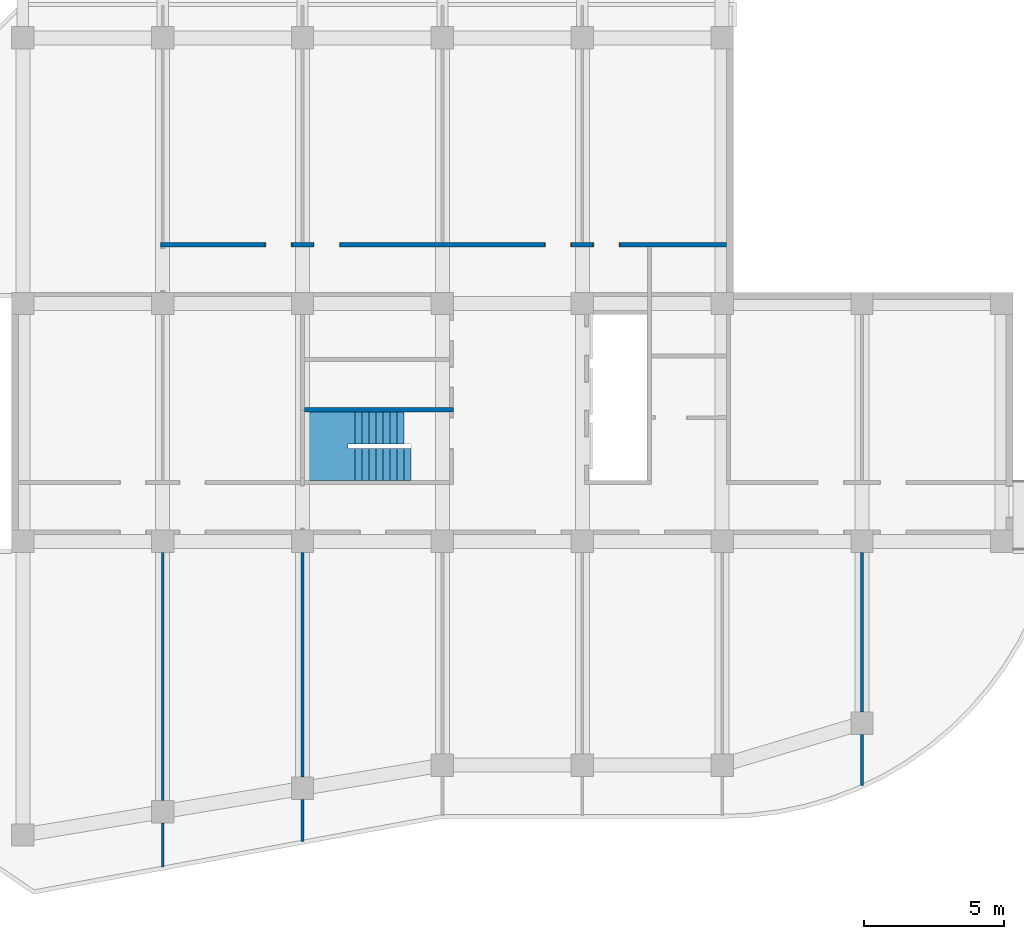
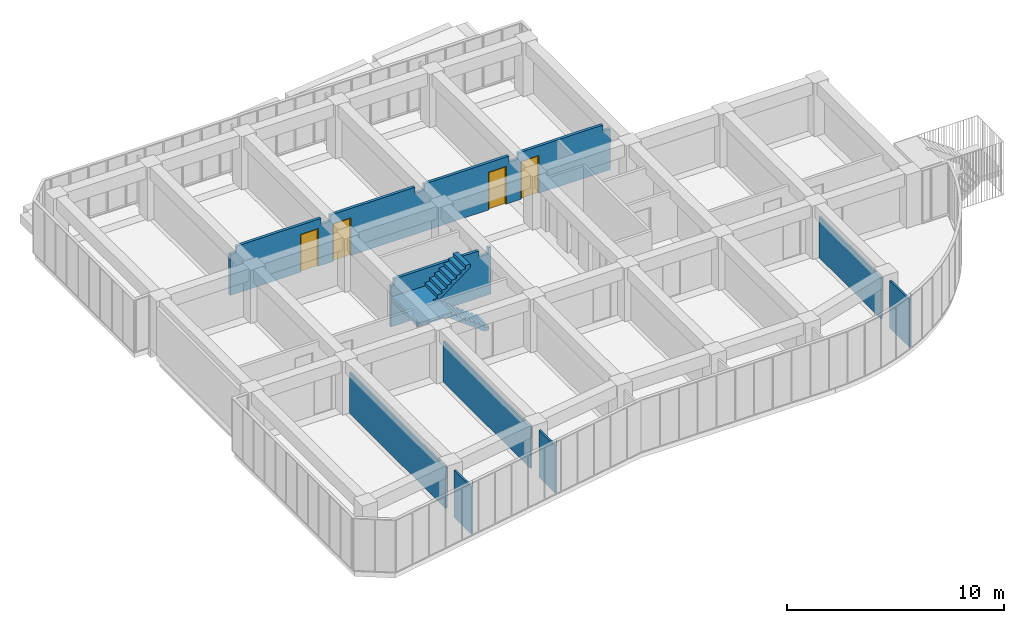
# One storey, part 6 of 6: 5 walls, 4 doors, 1 stair, 4 openings.
"""IFC2X3 building model written with IfcOpenShell, lengths in millimetres."""

from ifc_helpers import new_model, entity, si_unit, converted_unit, derived_unit, money_unit, direction, frame, origin_with_axes, place, context, subcontext, project, spatial, open_shell, faceted_brep, surface_model, source, transform, mapped, material, material_list, type_object, element, fill, save


model = new_model("IFC2X3")

# Units and contexts
model_context = context("Model", 3, precision=0.01, world=origin_with_axes(), true_north=direction((0.0, 1.0)))
body_context = subcontext(model_context, "Body", "Model", "MODEL_VIEW")
ifc_project = project(units=[si_unit("LENGTHUNIT", "METRE", prefix="MILLI"), si_unit("AREAUNIT", "SQUARE_METRE"), si_unit("VOLUMEUNIT", "CUBIC_METRE"), converted_unit("PLANEANGLEUNIT", "DEGREE", entity("IfcPlaneAngleMeasure", 0.0174532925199), si_unit("PLANEANGLEUNIT", "RADIAN"), dimensions=[0, 0, 0, 0, 0, 0, 0]), si_unit("SOLIDANGLEUNIT", "STERADIAN"), money_unit("JPY"), converted_unit("TIMEUNIT", "Year", entity("IfcTimeMeasure", 31556926.0), si_unit("TIMEUNIT", "SECOND"), dimensions=[0, 0, 1, 0, 0, 0, 0]), si_unit("MASSUNIT", "GRAM", prefix="KILO"), si_unit("THERMODYNAMICTEMPERATUREUNIT", "DEGREE_CELSIUS"), si_unit("LUMINOUSINTENSITYUNIT", "LUMEN"), si_unit("ENERGYUNIT", "JOULE", prefix="MEGA"), derived_unit("THERMALCONDUCTANCEUNIT", [(si_unit("POWERUNIT", "WATT"), 1), (si_unit("LENGTHUNIT", "METRE"), -1), (si_unit("THERMODYNAMICTEMPERATUREUNIT", "KELVIN"), -1)]), derived_unit("SPECIFICHEATCAPACITYUNIT", [(si_unit("ENERGYUNIT", "JOULE"), 1), (si_unit("MASSUNIT", "GRAM", prefix="KILO"), -1), (si_unit("THERMODYNAMICTEMPERATUREUNIT", "KELVIN"), -1)]), derived_unit("MASSDENSITYUNIT", [(si_unit("MASSUNIT", "GRAM", prefix="KILO"), 1), (si_unit("VOLUMEUNIT", "CUBIC_METRE"), -1)])], contexts=[model_context])

# Site, building, storey
site_placement = place(None, origin_with_axes())
site = spatial("IfcSite", under=ifc_project, at=site_placement, Name="サイト", CompositionType="ELEMENT")
building_placement = place(site_placement, origin_with_axes())
building = spatial("IfcBuilding", under=site, at=building_placement, Name="建築", CompositionType="ELEMENT")
storey_placement = place(building_placement, frame((0.0, 0.0, 6000.0), z_axis=(0.0, 0.0, 1.0), x_axis=(1.0, 0.0, 0.0)))
storey = spatial("IfcBuildingStorey", under=building, at=storey_placement, Name="3FL", CompositionType="ELEMENT", Elevation=6000.0)

# Wall
ifc_material_1 = material(Name="コンクリート")
wall_type_1 = type_object("IfcWallType", Name="コンクリート 150", PredefinedType="NOTDEFINED")
wall_1_placement = place(storey_placement, frame((10000.0, 4700.0, 0.0), z_axis=(0.0, 0.0, 1.0), x_axis=(1.0, 0.0, 0.0)))
element("IfcWall", 1, at=wall_1_placement, inside=storey, type_object=wall_type_1, material=ifc_material_1, Name="W4", context=body_context, shape_type="Brep", body=[
    faceted_brep([(75.0, 75.0, 0.0), (75.0, 75.0, 2300.0), (250.0, 75.0, 2300.0), (250.0, 75.0, 2650.0), (4750.0, 75.0, 2650.0), (4750.0, 75.0, 2300.0), (5250.0, 75.0, 2300.0), (5250.0, 75.0, 2650.0), (5399.99999555, 75.0, 2650.0), (5399.99999555, 75.0, 0.0), (75.0, 0.0, 0.0), (75.0, 0.0, 2300.0), (250.0, -75.0, 2300.0), (75.0, -75.0, 2300.0), (250.0, -75.0, 2650.0), (3381.20524398, -75.0, 2650.0), (4750.0, -75.0, 2650.0), (4750.0, -75.0, 2300.0), (5250.0, -75.0, 2300.0), (5250.0, -75.0, 2650.0), (5399.99999555, -75.0, 2650.0), (5399.99999555, -75.0, 0.0), (75.0, -75.0, 0.0)], [[[0, 1, 2, 3, 4, 5, 6, 7, 8, 9]], [[10, 11, 1, 0]], [[12, 2, 1, 11, 13]], [[12, 14, 3, 2]], [[4, 3, 14, 15, 16]], [[17, 5, 4, 16]], [[18, 6, 5, 17]], [[18, 19, 7, 6]], [[8, 7, 19, 20]], [[21, 9, 8, 20]], [[9, 21, 22, 10, 0]], [[22, 13, 11, 10]], [[14, 12, 13, 22, 21, 20, 19, 18, 17, 16, 15]]]),
])

# Wall, openings, doors
wall_2_placement = place(storey_placement, frame((25275.0000022, 10600.0, 0.0), z_axis=(0.0, 0.0, 1.0), x_axis=(-1.0, 0.0, 0.0)))
wall_2 = element("IfcWall", 2, at=wall_2_placement, inside=storey, type_object=wall_type_1, material=ifc_material_1, Name="W9", context=body_context, shape_type="Brep", body=[
    faceted_brep([(16620.0000022, -75.0, 2130.0), (16620.0000022, -75.0, 0.0), (20350.0000022, -75.0, 0.0), (20350.0000022, -75.0, 2300.0), (20025.0000022, -75.0, 2300.0), (20025.0000022, -75.0, 2650.0), (15525.0000022, -75.0, 2650.0), (15525.0000022, -75.0, 2300.0), (15025.0000022, -75.0, 2300.0), (15025.0000022, -75.0, 2650.0), (10525.0000022, -75.0, 2650.0), (10525.0000022, -75.0, 2300.0), (10025.0000022, -75.0, 2300.0), (10025.0000022, -75.0, 2650.0), (5525.00000218, -75.0, 2650.0), (5525.00000218, -75.0, 2300.0), (5025.00000218, -75.0, 2300.0), (5025.00000218, -75.0, 2650.0), (525.000002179, -75.0, 2650.0), (525.000002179, -75.0, 2300.0), (125.0, -75.0, 2300.0), (125.0, -75.0, 0.0), (3930.00000218, -75.0, 0.0), (3930.00000218, -75.0, 2130.0), (4890.00000218, -75.0, 2130.0), (4890.00000218, -75.0, 0.0), (5660.00000218, -75.0, 0.0), (5660.00000218, -75.0, 2130.0), (6620.00000218, -75.0, 2130.0), (6620.00000218, -75.0, 0.0), (13930.0000022, -75.0, 0.0), (13930.0000022, -75.0, 2130.0), (14890.0000022, -75.0, 2130.0), (14890.0000022, -75.0, 0.0), (15660.0000022, -75.0, 0.0), (15660.0000022, -75.0, 2130.0), (16620.0000022, 75.0, 2130.0), (16620.0000022, 75.0, 0.0), (20350.0000022, 75.0, 0.0), (20350.0000022, 75.0, 2300.0), (20025.0000022, 75.0, 2300.0), (20025.0000022, 75.0, 2650.0), (15525.0000022, 75.0, 2650.0), (15525.0000022, 75.0, 2300.0), (15025.0000022, 75.0, 2300.0), (15025.0000022, 75.0, 2650.0), (10525.0000022, 75.0, 2650.0), (10525.0000022, 75.0, 2300.0), (10025.0000022, 75.0, 2300.0), (10025.0000022, 75.0, 2650.0), (5525.00000218, 75.0, 2650.0), (5525.00000218, 75.0, 2300.0), (5025.00000218, 75.0, 2300.0), (5025.00000218, 75.0, 2650.0), (525.000002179, 75.0, 2650.0), (525.000002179, 75.0, 2300.0), (125.0, 75.0, 2300.0), (125.0, 75.0, 0.0), (3930.00000218, 75.0, 0.0), (3930.00000218, 75.0, 2130.0), (4890.00000218, 75.0, 2130.0), (4890.00000218, 75.0, 0.0), (5660.00000218, 75.0, 0.0), (5660.00000218, 75.0, 2130.0), (6620.00000218, 75.0, 2130.0), (6620.00000218, 75.0, 0.0), (13930.0000022, 75.0, 0.0), (13930.0000022, 75.0, 2130.0), (14890.0000022, 75.0, 2130.0), (14890.0000022, 75.0, 0.0), (15660.0000022, 75.0, 0.0), (15660.0000022, 75.0, 2130.0)], [[[0, 1, 2, 3, 4, 5, 6, 7, 8, 9, 10, 11, 12, 13, 14, 15, 16, 17, 18, 19, 20, 21, 22, 23, 24, 25, 26, 27, 28, 29, 30, 31, 32, 33, 34, 35]], [[1, 0, 36, 37]], [[1, 37, 38, 2]], [[38, 39, 3, 2]], [[40, 4, 3, 39]], [[40, 41, 5, 4]], [[6, 5, 41, 42]], [[43, 7, 6, 42]], [[44, 8, 7, 43]], [[44, 45, 9, 8]], [[10, 9, 45, 46]], [[47, 11, 10, 46]], [[48, 12, 11, 47]], [[48, 49, 13, 12]], [[14, 13, 49, 50]], [[51, 15, 14, 50]], [[52, 16, 15, 51]], [[52, 53, 17, 16]], [[53, 54, 18, 17]], [[55, 19, 18, 54]], [[55, 56, 20, 19]], [[21, 20, 56, 57]], [[21, 57, 58, 22]], [[58, 59, 23, 22]], [[59, 60, 24, 23]], [[60, 61, 25, 24]], [[62, 26, 25, 61]], [[63, 27, 26, 62]], [[64, 28, 27, 63]], [[65, 29, 28, 64]], [[30, 29, 65, 66]], [[30, 66, 67, 31]], [[31, 67, 68, 32]], [[32, 68, 69, 33]], [[70, 34, 33, 69]], [[35, 34, 70, 71]], [[0, 35, 71, 36]], [[71, 70, 69, 68, 67, 66, 65, 64, 63, 62, 61, 60, 59, 58, 57, 56, 55, 54, 53, 52, 51, 50, 49, 48, 47, 46, 45, 44, 43, 42, 41, 40, 39, 38, 37, 36]]]),
])
opening_1_placement = place(wall_2_placement, frame((6140.00000218, 0.0, 0.0), z_axis=(0.0, 0.0, 1.0), x_axis=(1.0, 0.0, 0.0)))
opening_1 = element("IfcOpeningElement", 3, at=opening_1_placement, cuts=wall_2, Name="SD3", context=body_context, shape_type="Brep", body=[
    faceted_brep([(480.0, 160.0, 0.0), (480.0, 160.0, 2130.0), (480.0, -160.0, 2130.0), (480.0, -160.0, 0.0), (-480.0, 160.0, 0.0), (-480.0, 160.0, 2130.0), (-480.0, -160.0, 2130.0), (-480.0, -160.0, 0.0)], [[[0, 1, 2, 3]], [[0, 4, 5, 1]], [[1, 5, 6, 2]], [[3, 2, 6, 7]], [[4, 0, 3, 7]], [[5, 4, 7, 6]]]),
])
opening_2_placement = place(wall_2_placement, frame((4410.00000218, 0.0, 0.0), z_axis=(0.0, 0.0, 1.0), x_axis=(1.0, 0.0, 0.0)))
opening_2 = element("IfcOpeningElement", 4, at=opening_2_placement, cuts=wall_2, Name="SD4", context=body_context, shape_type="Brep", body=[
    faceted_brep([(-480.0, -160.0, 0.0), (-480.0, -160.0, 2130.0), (-480.0, 160.0, 2130.0), (-480.0, 160.0, 0.0), (480.0, -160.0, 0.0), (480.0, -160.0, 2130.0), (480.0, 160.0, 2130.0), (480.0, 160.0, 0.0)], [[[0, 1, 2, 3]], [[0, 4, 5, 1]], [[1, 5, 6, 2]], [[3, 2, 6, 7]], [[4, 0, 3, 7]], [[5, 4, 7, 6]]]),
])
opening_3_placement = place(wall_2_placement, frame((14410.0000022, 0.0, 0.0), z_axis=(0.0, 0.0, 1.0), x_axis=(1.0, 0.0, 0.0)))
opening_3 = element("IfcOpeningElement", 5, at=opening_3_placement, cuts=wall_2, Name="SD5", context=body_context, shape_type="Brep", body=[
    faceted_brep([(-480.0, -160.0, 0.0), (-480.0, -160.0, 2130.0), (-480.0, 160.0, 2130.0), (-480.0, 160.0, 0.0), (480.0, -160.0, 0.0), (480.0, -160.0, 2130.0), (480.0, 160.0, 2130.0), (480.0, 160.0, 0.0)], [[[0, 1, 2, 3]], [[0, 4, 5, 1]], [[1, 5, 6, 2]], [[3, 2, 6, 7]], [[4, 0, 3, 7]], [[5, 4, 7, 6]]]),
])
opening_4_placement = place(wall_2_placement, frame((16140.0000022, 0.0, 0.0), z_axis=(0.0, 0.0, 1.0), x_axis=(1.0, 0.0, 0.0)))
opening_4 = element("IfcOpeningElement", 6, at=opening_4_placement, cuts=wall_2, Name="SD6", context=body_context, shape_type="Brep", body=[
    faceted_brep([(480.0, 160.0, 0.0), (480.0, 160.0, 2130.0), (480.0, -160.0, 2130.0), (480.0, -160.0, 0.0), (-480.0, 160.0, 0.0), (-480.0, 160.0, 2130.0), (-480.0, -160.0, 2130.0), (-480.0, -160.0, 0.0)], [[[0, 1, 2, 3]], [[0, 4, 5, 1]], [[1, 5, 6, 2]], [[3, 2, 6, 7]], [[4, 0, 3, 7]], [[5, 4, 7, 6]]]),
])
door_style = type_object("IfcDoorStyle", Name="片開き戸", ConstructionType="NOTDEFINED", OperationType="NOTDEFINED", ParameterTakesPrecedence=False, Sizeable=False)
shared_shape_1 = source(origin_with_axes(), body_context, "Body", "SurfaceModel", [
    surface_model("IfcShellBasedSurfaceModel", [(-450.0, 85.0, 0.0), (-450.0, 85.0, 2100.0), (450.0, 85.0, 2100.0), (450.0, 85.0, 0.0)], [open_shell([[[0, 1, 2, 3]]])]),
    surface_model("IfcShellBasedSurfaceModel", [(-480.0, 160.0, 0.0), (-480.0, 160.0, 2130.0), (480.0, 160.0, 2130.0), (480.0, 160.0, 0.0), (450.0, 160.0, 0.0), (450.0, 160.0, 2100.0), (-450.0, 160.0, 2100.0), (-450.0, 160.0, 0.0)], [open_shell([[[0, 1, 2, 3, 4, 5, 6, 7]]])]),
    surface_model("IfcShellBasedSurfaceModel", [(-480.0, 10.0, 0.0), (-480.0, 10.0, 2130.0), (480.0, 10.0, 2130.0), (480.0, 10.0, 0.0), (450.0, 10.0, 0.0), (450.0, 10.0, 2100.0), (-450.0, 10.0, 2100.0), (-450.0, 10.0, 0.0)], [open_shell([[[0, 1, 2, 3, 4, 5, 6, 7]]])]),
    surface_model("IfcShellBasedSurfaceModel", [(-450.0, 160.0, 0.0), (-450.0, 160.0, 2100.0), (-450.0, 10.0, 2100.0), (-450.0, 10.0, 0.0), (450.0, 160.0, 2100.0), (450.0, 10.0, 2100.0), (-480.0, 160.0, 0.0), (-480.0, 10.0, 0.0), (450.0, 160.0, 0.0), (450.0, 10.0, 0.0), (-480.0, 160.0, 2130.0), (-480.0, 10.0, 2130.0), (480.0, 160.0, 0.0), (480.0, 10.0, 0.0), (480.0, 160.0, 2130.0), (480.0, 10.0, 2130.0)], [open_shell([[[0, 1, 2, 3]], [[1, 4, 5, 2]], [[6, 0, 3, 7]], [[4, 8, 9, 5]], [[10, 6, 7, 11]], [[8, 12, 13, 9]], [[14, 10, 11, 15]], [[12, 14, 15, 13]]])]),
])
door_1_placement = place(opening_4_placement, frame((450.0, 0.0, 0.0), z_axis=(0.0, 0.0, 1.0), x_axis=(-1.0, 0.0, 0.0)))
door_1 = element("IfcDoor", 7, at=door_1_placement, inside=storey, type_object=door_style, Name="SD6", OverallHeight=2165.0, OverallWidth=1030.0, context=body_context, shape_type="MappedRepresentation", body=[
    mapped(shared_shape_1, transform((450.0, -85.0, 0.0))),
])
fill(opening_4, door_1)
shared_shape_2 = source(origin_with_axes(), body_context, "Body", "SurfaceModel", [
    surface_model("IfcShellBasedSurfaceModel", [(-450.0, -85.0, 0.0), (-450.0, -85.0, 2100.0), (450.0, -85.0, 2100.0), (450.0, -85.0, 0.0)], [open_shell([[[0, 1, 2, 3]]])]),
    surface_model("IfcShellBasedSurfaceModel", [(-480.0, -10.0, 0.0), (-480.0, -10.0, 2130.0), (480.0, -10.0, 2130.0), (480.0, -10.0, 0.0), (450.0, -10.0, 0.0), (450.0, -10.0, 2100.0), (-450.0, -10.0, 2100.0), (-450.0, -10.0, 0.0)], [open_shell([[[0, 1, 2, 3, 4, 5, 6, 7]]])]),
    surface_model("IfcShellBasedSurfaceModel", [(-480.0, -160.0, 0.0), (-480.0, -160.0, 2130.0), (480.0, -160.0, 2130.0), (480.0, -160.0, 0.0), (450.0, -160.0, 0.0), (450.0, -160.0, 2100.0), (-450.0, -160.0, 2100.0), (-450.0, -160.0, 0.0)], [open_shell([[[0, 1, 2, 3, 4, 5, 6, 7]]])]),
    surface_model("IfcShellBasedSurfaceModel", [(-450.0, -10.0, 0.0), (-450.0, -10.0, 2100.0), (-450.0, -160.0, 2100.0), (-450.0, -160.0, 0.0), (450.0, -10.0, 2100.0), (450.0, -160.0, 2100.0), (-480.0, -10.0, 0.0), (-480.0, -160.0, 0.0), (450.0, -10.0, 0.0), (450.0, -160.0, 0.0), (-480.0, -10.0, 2130.0), (-480.0, -160.0, 2130.0), (480.0, -10.0, 0.0), (480.0, -160.0, 0.0), (480.0, -10.0, 2130.0), (480.0, -160.0, 2130.0)], [open_shell([[[0, 1, 2, 3]], [[1, 4, 5, 2]], [[6, 0, 3, 7]], [[4, 8, 9, 5]], [[10, 6, 7, 11]], [[8, 12, 13, 9]], [[14, 10, 11, 15]], [[12, 14, 15, 13]]])]),
])
door_2_placement = place(opening_1_placement, frame((450.0, 0.0, 0.0), z_axis=(0.0, 0.0, 1.0), x_axis=(-1.0, 0.0, 0.0)))
door_2 = element("IfcDoor", 8, at=door_2_placement, inside=storey, type_object=door_style, Name="SD3", OverallHeight=2165.0, OverallWidth=1030.0, context=body_context, shape_type="MappedRepresentation", body=[
    mapped(shared_shape_2, transform((450.0, 85.0, 0.0))),
])
fill(opening_1, door_2)
shared_shape_3 = source(origin_with_axes(), body_context, "Body", "SurfaceModel", [
    surface_model("IfcShellBasedSurfaceModel", [(450.0, -85.0, 0.0), (-450.0, -85.0, 0.0), (-450.0, -85.0, 2100.0), (450.0, -85.0, 2100.0)], [open_shell([[[0, 1, 2, 3]]])]),
    surface_model("IfcShellBasedSurfaceModel", [(480.0, -10.0, 0.0), (450.0, -10.0, 0.0), (450.0, -10.0, 2100.0), (-450.0, -10.0, 2100.0), (-450.0, -10.0, 0.0), (-480.0, -10.0, 0.0), (-480.0, -10.0, 2130.0), (480.0, -10.0, 2130.0)], [open_shell([[[0, 1, 2, 3, 4, 5, 6, 7]]])]),
    surface_model("IfcShellBasedSurfaceModel", [(480.0, -160.0, 0.0), (450.0, -160.0, 0.0), (450.0, -160.0, 2100.0), (-450.0, -160.0, 2100.0), (-450.0, -160.0, 0.0), (-480.0, -160.0, 0.0), (-480.0, -160.0, 2130.0), (480.0, -160.0, 2130.0)], [open_shell([[[0, 1, 2, 3, 4, 5, 6, 7]]])]),
    surface_model("IfcShellBasedSurfaceModel", [(450.0, -10.0, 0.0), (450.0, -160.0, 0.0), (450.0, -160.0, 2100.0), (450.0, -10.0, 2100.0), (480.0, -10.0, 0.0), (480.0, -160.0, 0.0), (-450.0, -160.0, 2100.0), (-450.0, -10.0, 2100.0), (480.0, -10.0, 2130.0), (480.0, -160.0, 2130.0), (-450.0, -160.0, 0.0), (-450.0, -10.0, 0.0), (-480.0, -10.0, 2130.0), (-480.0, -160.0, 2130.0), (-480.0, -160.0, 0.0), (-480.0, -10.0, 0.0)], [open_shell([[[0, 1, 2, 3]], [[4, 5, 1, 0]], [[3, 2, 6, 7]], [[8, 9, 5, 4]], [[7, 6, 10, 11]], [[12, 13, 9, 8]], [[11, 10, 14, 15]], [[15, 14, 13, 12]]])]),
])
door_3_placement = place(opening_2_placement, frame((450.0, 0.0, 0.0), z_axis=(0.0, 0.0, 1.0), x_axis=(-1.0, 0.0, 0.0)))
door_3 = element("IfcDoor", 9, at=door_3_placement, inside=storey, type_object=door_style, Name="SD4", OverallHeight=2165.0, OverallWidth=1030.0, context=body_context, shape_type="MappedRepresentation", body=[
    mapped(shared_shape_3, transform((450.0, 85.0, 0.0))),
])
fill(opening_2, door_3)
shared_shape_4 = source(origin_with_axes(), body_context, "Body", "SurfaceModel", [
    surface_model("IfcShellBasedSurfaceModel", [(450.0, 85.0, 0.0), (-450.0, 85.0, 0.0), (-450.0, 85.0, 2100.0), (450.0, 85.0, 2100.0)], [open_shell([[[0, 1, 2, 3]]])]),
    surface_model("IfcShellBasedSurfaceModel", [(480.0, 160.0, 0.0), (450.0, 160.0, 0.0), (450.0, 160.0, 2100.0), (-450.0, 160.0, 2100.0), (-450.0, 160.0, 0.0), (-480.0, 160.0, 0.0), (-480.0, 160.0, 2130.0), (480.0, 160.0, 2130.0)], [open_shell([[[0, 1, 2, 3, 4, 5, 6, 7]]])]),
    surface_model("IfcShellBasedSurfaceModel", [(480.0, 10.0, 0.0), (450.0, 10.0, 0.0), (450.0, 10.0, 2100.0), (-450.0, 10.0, 2100.0), (-450.0, 10.0, 0.0), (-480.0, 10.0, 0.0), (-480.0, 10.0, 2130.0), (480.0, 10.0, 2130.0)], [open_shell([[[0, 1, 2, 3, 4, 5, 6, 7]]])]),
    surface_model("IfcShellBasedSurfaceModel", [(450.0, 160.0, 0.0), (450.0, 10.0, 0.0), (450.0, 10.0, 2100.0), (450.0, 160.0, 2100.0), (480.0, 160.0, 0.0), (480.0, 10.0, 0.0), (-450.0, 10.0, 2100.0), (-450.0, 160.0, 2100.0), (480.0, 160.0, 2130.0), (480.0, 10.0, 2130.0), (-450.0, 10.0, 0.0), (-450.0, 160.0, 0.0), (-480.0, 160.0, 2130.0), (-480.0, 10.0, 2130.0), (-480.0, 10.0, 0.0), (-480.0, 160.0, 0.0)], [open_shell([[[0, 1, 2, 3]], [[4, 5, 1, 0]], [[3, 2, 6, 7]], [[8, 9, 5, 4]], [[7, 6, 10, 11]], [[12, 13, 9, 8]], [[11, 10, 14, 15]], [[15, 14, 13, 12]]])]),
])
door_4_placement = place(opening_3_placement, frame((450.0, 0.0, 0.0), z_axis=(0.0, 0.0, 1.0), x_axis=(-1.0, 0.0, 0.0)))
door_4 = element("IfcDoor", 10, at=door_4_placement, inside=storey, type_object=door_style, Name="SD5", OverallHeight=2165.0, OverallWidth=1030.0, context=body_context, shape_type="MappedRepresentation", body=[
    mapped(shared_shape_4, transform((450.0, -85.0, 0.0))),
])
fill(opening_3, door_4)

# Walls
ifc_material_2 = material(Name="石膏ボード")
wall_type_2 = type_object("IfcWallType", Name="石膏ボード 100", PredefinedType="NOTDEFINED")
wall_3_placement = place(storey_placement, frame((10000.0, 324.999998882, 0.0), z_axis=(0.0, 0.0, 1.0), x_axis=(0.0, -1.0, 0.0)))
element("IfcWall", 11, at=wall_3_placement, inside=storey, type_object=wall_type_2, material=ifc_material_2, Name="W13", context=body_context, shape_type="Brep", body=[
    faceted_brep([(11049.6574785, 50.0, 0.0), (9558.33333222, 50.0, 0.0), (9558.33333222, 50.0, 2650.0), (11040.4109037, 50.0, 2650.0), (11040.4109037, 50.0, 3000.0), (11049.6574785, 50.0, 3000.0), (11049.6574785, -50.0, 0.0), (9558.33333222, -50.0, 0.0), (9558.33333222, -50.0, 2650.0), (11049.6574785, -50.0, 2650.0), (11049.6574785, 0.0, 2650.0), (11049.6574785, 0.0, 3000.0)], [[[0, 1, 2, 3, 4, 5]], [[6, 7, 1, 0]], [[7, 8, 2, 1]], [[3, 2, 8, 9, 10]], [[4, 3, 10, 11]], [[4, 11, 5]], [[0, 5, 11, 10, 9, 6]], [[9, 8, 7, 6]]]),
    faceted_brep([(8758.33333222, 50.0, 0.0), (724.999998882, 50.0, 0.0), (724.999998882, 50.0, 2300.0), (8758.33333222, 50.0, 2300.0), (8758.33333222, -50.0, 0.0), (724.999998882, -50.0, 0.0), (724.999998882, -50.0, 2300.0), (8758.33333222, -50.0, 2300.0)], [[[0, 1, 2, 3]], [[4, 5, 1, 0]], [[5, 6, 2, 1]], [[3, 2, 6, 7]], [[4, 0, 3, 7]], [[7, 6, 5, 4]]]),
])
wall_4_placement = place(storey_placement, frame((5000.0, 324.999998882, 0.0), z_axis=(0.0, 0.0, 1.0), x_axis=(0.0, -1.0, 0.0)))
element("IfcWall", 12, at=wall_4_placement, inside=storey, type_object=wall_type_2, material=ifc_material_2, Name="W14", context=body_context, shape_type="Brep", body=[
    faceted_brep([(11974.3149582, 50.0, 0.0), (10391.6666655, 50.0, 0.0), (10391.6666655, 50.0, 2650.0), (11965.0683834, 50.0, 2650.0), (11965.0683834, 50.0, 3000.0), (11974.3149582, 50.0, 3000.0), (11974.3149582, -50.0, 0.0), (10391.6666655, -50.0, 0.0), (10391.6666655, -50.0, 2650.0), (11974.3149582, -50.0, 2650.0), (11974.3149582, 0.0, 2650.0), (11974.3149582, 0.0, 3000.0)], [[[0, 1, 2, 3, 4, 5]], [[6, 7, 1, 0]], [[7, 8, 2, 1]], [[3, 2, 8, 9, 10]], [[4, 3, 10, 11]], [[4, 11, 5]], [[0, 5, 11, 10, 9, 6]], [[9, 8, 7, 6]]]),
    faceted_brep([(9591.66666555, 50.0, 0.0), (724.999998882, 50.0, 0.0), (724.999998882, 50.0, 2300.0), (9591.66666555, 50.0, 2300.0), (9591.66666555, -50.0, 0.0), (724.999998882, -50.0, 0.0), (724.999998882, -50.0, 2300.0), (9591.66666555, -50.0, 2300.0)], [[[0, 1, 2, 3]], [[4, 5, 1, 0]], [[5, 6, 2, 1]], [[3, 2, 6, 7]], [[4, 0, 3, 7]], [[7, 6, 5, 4]]]),
])
wall_5_placement = place(storey_placement, frame((30000.0, 325.000021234, 0.0), z_axis=(0.0, 0.0, 1.0), x_axis=(0.0, -1.0, 0.0)))
element("IfcWall", 13, at=wall_5_placement, inside=storey, type_object=wall_type_2, material=ifc_material_2, Name="W12", context=body_context, shape_type="Brep", body=[
    faceted_brep([(9058.01263368, 50.0, 0.0), (7225.00002123, 50.0, 0.0), (7225.00002123, 50.0, 2650.0), (9030.76295303, 50.0, 2650.0), (9030.76295303, 50.0, 3000.0), (9058.01263368, 50.0, 3000.0), (9058.01263368, -50.0, 0.0), (7225.00002123, -50.0, 0.0), (7225.00002123, -50.0, 2650.0), (9058.01263368, -50.0, 2650.0), (9058.01263368, -9.1897546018, 2650.0), (9058.01263368, -9.1897546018, 3000.0)], [[[0, 1, 2, 3, 4, 5]], [[6, 7, 1, 0]], [[7, 8, 2, 1]], [[3, 2, 8, 9, 10]], [[4, 3, 10, 11]], [[4, 11, 5]], [[0, 5, 11, 10, 9, 6]], [[9, 8, 7, 6]]]),
    faceted_brep([(6425.00002123, 50.0, 0.0), (725.000021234, 50.0, 0.0), (725.000021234, 50.0, 2300.0), (6425.00002123, 50.0, 2300.0), (6425.00002123, -50.0, 0.0), (725.000021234, -50.0, 0.0), (725.000021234, -50.0, 2300.0), (6425.00002123, -50.0, 2300.0)], [[[0, 1, 2, 3]], [[4, 5, 1, 0]], [[5, 6, 2, 1]], [[3, 2, 6, 7]], [[4, 0, 3, 7]], [[7, 6, 5, 4]]]),
])

# Stair
ifc_material_list = material_list([ifc_material_1, ifc_material_1, ifc_material_1])
stair_placement = place(storey_placement, frame((13881.205244, 3325.0, 0.0), z_axis=(0.0, 0.0, 1.0), x_axis=(1.0, 0.0, 0.0)))
element("IfcStair", 14, at=stair_placement, inside=storey, material=ifc_material_list, Name="K1", ShapeType="NOTDEFINED", context=body_context, shape_type="Brep", body=[
    faceted_brep([(-2000.0, 0.0, 1487.5), (-2000.0, -1150.0, 1487.5), (-2000.0, -1150.0, 1500.0), (-2000.0, 0.0, 1500.0), (-2233.33333333, 0.0, 1487.5), (-2233.33333333, -1150.0, 1487.5), (-2000.0, -1150.0, 1312.5), (-1916.66666667, -1150.0, 1250.0), (-1833.33333333, -1150.0, 1187.5), (-1750.0, -1150.0, 1125.0), (-1666.66666667, -1150.0, 1062.5), (-1583.33333333, -1150.0, 1000.0), (-1500.0, -1150.0, 937.5), (-1416.66666667, -1150.0, 875.0), (-1333.33333333, -1150.0, 812.5), (-1250.0, -1150.0, 750.0), (-1166.66666667, -1150.0, 687.5), (-1083.33333333, -1150.0, 625.0), (-1000.0, -1150.0, 562.5), (-916.666666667, -1150.0, 500.0), (-833.333333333, -1150.0, 437.5), (-750.0, -1150.0, 375.0), (-666.666666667, -1150.0, 312.5), (-583.333333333, -1150.0, 250.0), (-500.0, -1150.0, 187.5), (-416.666666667, -1150.0, 125.0), (-333.333333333, -1150.0, 62.5), (-250.0, -1150.0, 0.0), (0.0, -1150.0, 0.0), (0.0, -1150.0, 187.5), (-250.0, -1150.0, 187.5), (-250.0, -1150.0, 375.0), (-500.0, -1150.0, 375.0), (-500.0, -1150.0, 562.5), (-750.0, -1150.0, 562.5), (-750.0, -1150.0, 750.0), (-1000.0, -1150.0, 750.0), (-1000.0, -1150.0, 937.5), (-1250.0, -1150.0, 937.5), (-1250.0, -1150.0, 1125.0), (-1500.0, -1150.0, 1125.0), (-1500.0, -1150.0, 1312.5), (-1750.0, -1150.0, 1312.5), (-1750.0, -1150.0, 1500.0), (-1750.0, 0.0, 1500.0), (-1750.0, 0.0, 1312.5), (-1500.0, 0.0, 1312.5), (-1500.0, 0.0, 1125.0), (-1250.0, 0.0, 1125.0), (-1250.0, 0.0, 937.5), (-1000.0, 0.0, 937.5), (-1000.0, 0.0, 750.0), (-750.0, 0.0, 750.0), (-750.0, 0.0, 562.5), (-500.0, 0.0, 562.5), (-500.0, 0.0, 375.0), (-250.0, 0.0, 375.0), (-250.0, 0.0, 187.5), (0.0, 0.0, 187.5), (0.0, 0.0, 0.0), (-250.0, 0.0, 0.0), (-333.333333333, 0.0, 62.5), (-416.666666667, 0.0, 125.0), (-500.0, 0.0, 187.5), (-583.333333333, 0.0, 250.0), (-666.666666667, 0.0, 312.5), (-750.0, 0.0, 375.0), (-833.333333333, 0.0, 437.5), (-916.666666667, 0.0, 500.0), (-1000.0, 0.0, 562.5), (-1083.33333333, 0.0, 625.0), (-1166.66666667, 0.0, 687.5), (-1250.0, 0.0, 750.0), (-1333.33333333, 0.0, 812.5), (-1416.66666667, 0.0, 875.0), (-1500.0, 0.0, 937.5), (-1583.33333333, 0.0, 1000.0), (-1666.66666667, 0.0, 1062.5), (-1750.0, 0.0, 1125.0), (-1833.33333333, 0.0, 1187.5), (-1916.66666667, 0.0, 1250.0), (-2000.0, 0.0, 1312.5)], [[[0, 1, 2, 3]], [[1, 0, 4, 5]], [[6, 7, 8, 9, 10, 11, 12, 13, 14, 15, 16, 17, 18, 19, 20, 21, 22, 23, 24, 25, 26, 27, 28, 29, 30, 31, 32, 33, 34, 35, 36, 37, 38, 39, 40, 41, 42, 43, 2, 1, 5]], [[44, 3, 2, 43]], [[0, 3, 44, 45, 46, 47, 48, 49, 50, 51, 52, 53, 54, 55, 56, 57, 58, 59, 60, 61, 62, 63, 64, 65, 66, 67, 68, 69, 70, 71, 72, 73, 74, 75, 76, 77, 78, 79, 80, 81, 4]], [[81, 80, 7, 6, 5, 4]], [[7, 80, 79, 8]], [[8, 79, 78, 9]], [[9, 78, 77, 10]], [[10, 77, 76, 11]], [[11, 76, 75, 12]], [[12, 75, 74, 13]], [[13, 74, 73, 14]], [[14, 73, 72, 15]], [[15, 72, 71, 16]], [[16, 71, 70, 17]], [[17, 70, 69, 18]], [[18, 69, 68, 19]], [[19, 68, 67, 20]], [[20, 67, 66, 21]], [[21, 66, 65, 22]], [[22, 65, 64, 23]], [[23, 64, 63, 24]], [[24, 63, 62, 25]], [[25, 62, 61, 26]], [[26, 61, 60, 27]], [[60, 59, 28, 27]], [[28, 59, 58, 29]], [[29, 58, 57, 30]], [[56, 31, 30, 57]], [[31, 56, 55, 32]], [[54, 33, 32, 55]], [[33, 54, 53, 34]], [[52, 35, 34, 53]], [[35, 52, 51, 36]], [[50, 37, 36, 51]], [[37, 50, 49, 38]], [[48, 39, 38, 49]], [[39, 48, 47, 40]], [[46, 41, 40, 47]], [[41, 46, 45, 42]], [[44, 43, 42, 45]]]),
    faceted_brep([(-2016.66666667, 150.0, 1687.5), (-2016.66666667, 1300.0, 1687.5), (-3806.20524398, 1300.0, 1687.5), (-3806.20524398, -1150.0, 1687.5), (-2000.0, -1150.0, 1687.5), (-2000.0, 0.0, 1687.5), (-2250.0, 0.0, 1687.5), (-2250.0, 150.0, 1687.5), (-2016.66666667, 1300.0, 1487.5), (-2016.66666667, 150.0, 1487.5), (-3806.20524398, 1300.0, 1487.5), (-3806.20524398, -1150.0, 1487.5), (-2000.0, -1150.0, 1487.5), (-2000.0, 0.0, 1487.5), (-2250.0, 0.0, 1487.5), (-2250.0, 150.0, 1487.5)], [[[0, 1, 2, 3, 4, 5, 6, 7]], [[8, 1, 0, 9]], [[1, 8, 10, 2]], [[2, 10, 11, 3]], [[3, 11, 12, 4]], [[4, 12, 13, 5]], [[5, 13, 14, 6]], [[6, 14, 15, 7]], [[9, 0, 7, 15]], [[8, 9, 15, 14, 13, 12, 11, 10]]]),
    faceted_brep([(-1916.66666667, 150.0, 1562.5), (-2000.0, 150.0, 1500.0), (-2000.0, 1300.0, 1500.0), (-1916.66666667, 1300.0, 1562.5), (-2016.66666667, 150.0, 1487.5), (-1833.33333333, 150.0, 1625.0), (-1750.0, 150.0, 1687.5), (-1666.66666667, 150.0, 1750.0), (-1583.33333333, 150.0, 1812.5), (-1500.0, 150.0, 1875.0), (-1416.66666667, 150.0, 1937.5), (-1333.33333333, 150.0, 2000.0), (-1250.0, 150.0, 2062.5), (-1166.66666667, 150.0, 2125.0), (-1083.33333333, 150.0, 2187.5), (-1000.0, 150.0, 2250.0), (-916.666666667, 150.0, 2312.5), (-833.333333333, 150.0, 2375.0), (-750.0, 150.0, 2437.5), (-666.666666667, 150.0, 2500.0), (-583.333333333, 150.0, 2562.5), (-500.0, 150.0, 2625.0), (-416.666666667, 150.0, 2687.5), (-333.333333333, 150.0, 2750.0), (-250.0, 150.0, 2812.5), (-250.0, 150.0, 3000.0), (-500.0, 150.0, 3000.0), (-500.0, 150.0, 2812.5), (-750.0, 150.0, 2812.5), (-750.0, 150.0, 2625.0), (-1000.0, 150.0, 2625.0), (-1000.0, 150.0, 2437.5), (-1250.0, 150.0, 2437.5), (-1250.0, 150.0, 2250.0), (-1500.0, 150.0, 2250.0), (-1500.0, 150.0, 2062.5), (-1750.0, 150.0, 2062.5), (-1750.0, 150.0, 1875.0), (-2000.0, 150.0, 1875.0), (-2000.0, 150.0, 1687.5), (-2016.66666667, 150.0, 1687.5), (-2016.66666667, 1300.0, 1487.5), (-2016.66666667, 1300.0, 1687.5), (-2000.0, 1300.0, 1687.5), (-2000.0, 1300.0, 1875.0), (-1750.0, 1300.0, 1875.0), (-1750.0, 1300.0, 2062.5), (-1500.0, 1300.0, 2062.5), (-1500.0, 1300.0, 2250.0), (-1250.0, 1300.0, 2250.0), (-1250.0, 1300.0, 2437.5), (-1000.0, 1300.0, 2437.5), (-1000.0, 1300.0, 2625.0), (-750.0, 1300.0, 2625.0), (-750.0, 1300.0, 2812.5), (-500.0, 1300.0, 2812.5), (-500.0, 1300.0, 3000.0), (-250.0, 1300.0, 3000.0), (-250.0, 1300.0, 2812.5), (-333.333333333, 1300.0, 2750.0), (-416.666666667, 1300.0, 2687.5), (-500.0, 1300.0, 2625.0), (-583.333333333, 1300.0, 2562.5), (-666.666666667, 1300.0, 2500.0), (-750.0, 1300.0, 2437.5), (-833.333333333, 1300.0, 2375.0), (-916.666666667, 1300.0, 2312.5), (-1000.0, 1300.0, 2250.0), (-1083.33333333, 1300.0, 2187.5), (-1166.66666667, 1300.0, 2125.0), (-1250.0, 1300.0, 2062.5), (-1333.33333333, 1300.0, 2000.0), (-1416.66666667, 1300.0, 1937.5), (-1500.0, 1300.0, 1875.0), (-1583.33333333, 1300.0, 1812.5), (-1666.66666667, 1300.0, 1750.0), (-1750.0, 1300.0, 1687.5), (-1833.33333333, 1300.0, 1625.0)], [[[0, 1, 2, 3]], [[4, 1, 0, 5, 6, 7, 8, 9, 10, 11, 12, 13, 14, 15, 16, 17, 18, 19, 20, 21, 22, 23, 24, 25, 26, 27, 28, 29, 30, 31, 32, 33, 34, 35, 36, 37, 38, 39, 40]], [[41, 2, 1, 4]], [[42, 43, 44, 45, 46, 47, 48, 49, 50, 51, 52, 53, 54, 55, 56, 57, 58, 59, 60, 61, 62, 63, 64, 65, 66, 67, 68, 69, 70, 71, 72, 73, 74, 75, 76, 77, 3, 2, 41]], [[5, 0, 3, 77]], [[6, 5, 77, 76]], [[7, 6, 76, 75]], [[8, 7, 75, 74]], [[9, 8, 74, 73]], [[10, 9, 73, 72]], [[11, 10, 72, 71]], [[12, 11, 71, 70]], [[13, 12, 70, 69]], [[14, 13, 69, 68]], [[15, 14, 68, 67]], [[16, 15, 67, 66]], [[17, 16, 66, 65]], [[18, 17, 65, 64]], [[19, 18, 64, 63]], [[20, 19, 63, 62]], [[21, 20, 62, 61]], [[22, 21, 61, 60]], [[23, 22, 60, 59]], [[23, 59, 58, 24]], [[57, 25, 24, 58]], [[56, 26, 25, 57]], [[27, 26, 56, 55]], [[55, 54, 28, 27]], [[29, 28, 54, 53]], [[53, 52, 30, 29]], [[31, 30, 52, 51]], [[51, 50, 32, 31]], [[33, 32, 50, 49]], [[49, 48, 34, 33]], [[35, 34, 48, 47]], [[47, 46, 36, 35]], [[37, 36, 46, 45]], [[45, 44, 38, 37]], [[44, 43, 39, 38]], [[40, 39, 43, 42]], [[41, 4, 40, 42]]]),
])

save(model, "model.ifc")
